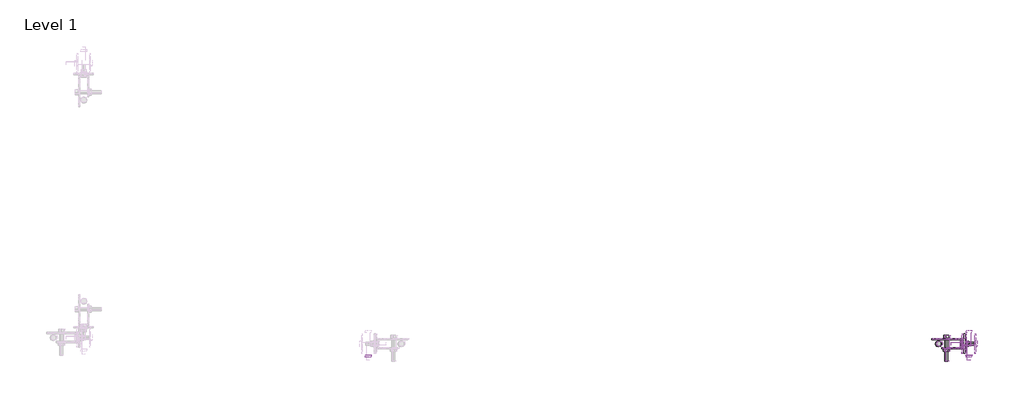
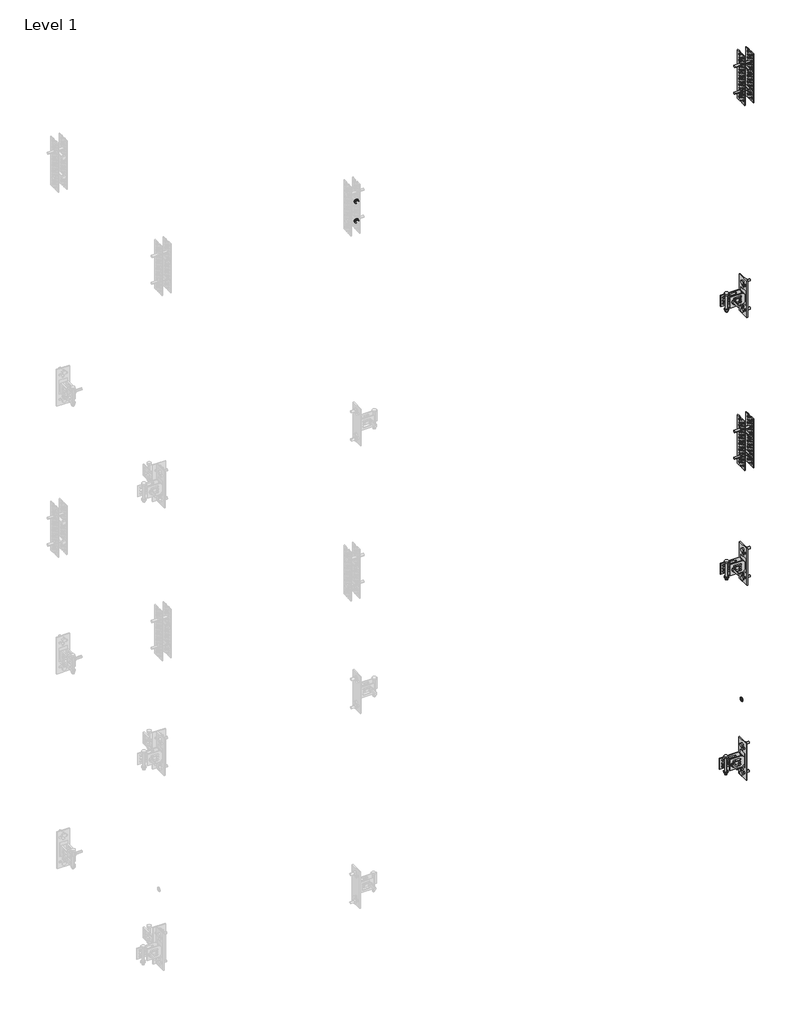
# One storey, part 16 of 32: 73 valves.
"""IFC4 building model written with IfcOpenShell, lengths in millimetres."""

from ifc_helpers import new_model, si_unit, origin, place, context, project, spatial, transform, mapped, element, save
from components import valve_fad8a5b8, hexagon_nut_galvanized_extra_m8_53389388, superfix_hexagon_screw_galvanized_f0d66714, superfix_hexagon_screw_galvanized_68d17cb7, superfix_hexagon_screw_galvanized_e39b877e, superfix_hexagon_screw_galvanized_3ef5af78, superfix_hexagon_screw_galvanized_3d7df342, superfix_strap_981cfdac, superfix_u_31397e19, superfix_u_bracket_h_0b8578fe

model = new_model("IFC4")

# Units and contexts
model_context = context("Model", 3, world=origin())
ifc_project = project(units=[si_unit("LENGTHUNIT", "METRE", prefix="MILLI")], contexts=[model_context])

# Site, building, storey
site = spatial("IfcSite", under=ifc_project)
building = spatial("IfcBuilding", under=site)
storey = spatial("IfcBuildingStorey", under=building, Name="Level 1", Elevation=0.0)

# Valves
placement = place(None, origin())
valve_shape = valve_fad8a5b8(model_context)
element("IfcValve", 1, ObjectType="Superfix Flat Washer : Superfix Flat Washer M8x15x1.5", at=placement, inside=storey, context=model_context, shape_type="MappedRepresentation", body=[
    mapped(valve_shape, transform((-14221.2824311, 28749.96055, 700.0), x_axis=(1.0, 0.0, 0.0), y_axis=(0.0, 0.0, 1.0), z_axis=(0.0, -1.0, 0.0))),
])
element("IfcValve", 2, ObjectType="Superfix Flat Washer : Superfix Flat Washer M8x15x1.5", at=placement, inside=storey, context=model_context, shape_type="MappedRepresentation", body=[
    mapped(valve_shape, transform((-14170.2824311, 28762.46055, 758.0), x_axis=(0.0, 0.0, 1.0), y_axis=(0.0, 1.0, 0.0), z_axis=(-1.0, 0.0, 0.0))),
])
element("IfcValve", 3, ObjectType="Superfix Flat Washer : Superfix Flat Washer M8x15x1.5", at=placement, inside=storey, context=model_context, shape_type="MappedRepresentation", body=[
    mapped(valve_shape, transform((-14170.2824311, 28762.46055, 642.0), x_axis=(0.0, 0.0, 1.0), y_axis=(0.0, 1.0, 0.0), z_axis=(-1.0, 0.0, 0.0))),
])
element("IfcValve", 4, ObjectType="Superfix Flat Washer : Superfix Flat Washer M8x15x1.5", at=placement, inside=storey, context=model_context, shape_type="MappedRepresentation", body=[
    mapped(valve_shape, transform((-14241.2824311, 28762.46055, 671.5), x_axis=(1.0, 0.0, 0.0), y_axis=(0.0, -1.0, 0.0), z_axis=(0.0, 0.0, -1.0))),
])
element("IfcValve", 5, ObjectType="Superfix Flat Washer : Superfix Flat Washer M8x15x1.5", at=placement, inside=storey, context=model_context, shape_type="MappedRepresentation", body=[
    mapped(valve_shape, transform((-14218.2824311, 28749.96055, 2600.0), x_axis=(1.0, 0.0, 0.0), y_axis=(0.0, 0.0, 1.0), z_axis=(0.0, -1.0, 0.0))),
])
element("IfcValve", 6, ObjectType="Superfix Flat Washer : Superfix Flat Washer M8x15x1.5", at=placement, inside=storey, context=model_context, shape_type="MappedRepresentation", body=[
    mapped(valve_shape, transform((-14167.2824311, 28762.46055, 2658.0), x_axis=(0.0, 0.0, 1.0), y_axis=(0.0, 1.0, 0.0), z_axis=(-1.0, 0.0, 0.0))),
])
element("IfcValve", 7, ObjectType="Superfix Flat Washer : Superfix Flat Washer M8x15x1.5", at=placement, inside=storey, context=model_context, shape_type="MappedRepresentation", body=[
    mapped(valve_shape, transform((-14167.2824311, 28762.46055, 2542.0), x_axis=(0.0, 0.0, 1.0), y_axis=(0.0, 1.0, 0.0), z_axis=(-1.0, 0.0, 0.0))),
])
element("IfcValve", 8, ObjectType="Superfix Flat Washer : Superfix Flat Washer M8x15x1.5", at=placement, inside=storey, context=model_context, shape_type="MappedRepresentation", body=[
    mapped(valve_shape, transform((-14238.2824311, 28762.46055, 2571.5), x_axis=(1.0, 0.0, 0.0), y_axis=(0.0, -1.0, 0.0), z_axis=(0.0, 0.0, -1.0))),
])
element("IfcValve", 9, ObjectType="Superfix Flat Washer : Superfix Flat Washer M8x15x1.5", at=placement, inside=storey, context=model_context, shape_type="MappedRepresentation", body=[
    mapped(valve_shape, transform((-14218.2824311, 28749.96055, 1500.0), x_axis=(1.0, 0.0, 0.0), y_axis=(0.0, 0.0, 1.0), z_axis=(0.0, -1.0, 0.0))),
])
element("IfcValve", 10, ObjectType="Superfix Flat Washer : Superfix Flat Washer M8x15x1.5", at=placement, inside=storey, context=model_context, shape_type="MappedRepresentation", body=[
    mapped(valve_shape, transform((-14167.2824311, 28762.46055, 1558.0), x_axis=(0.0, 0.0, 1.0), y_axis=(0.0, 1.0, 0.0), z_axis=(-1.0, 0.0, 0.0))),
])
element("IfcValve", 11, ObjectType="Superfix Flat Washer : Superfix Flat Washer M8x15x1.5", at=placement, inside=storey, context=model_context, shape_type="MappedRepresentation", body=[
    mapped(valve_shape, transform((-14167.2824311, 28762.46055, 1442.0), x_axis=(0.0, 0.0, 1.0), y_axis=(0.0, 1.0, 0.0), z_axis=(-1.0, 0.0, 0.0))),
])
element("IfcValve", 12, ObjectType="Superfix Flat Washer : Superfix Flat Washer M8x15x1.5", at=placement, inside=storey, context=model_context, shape_type="MappedRepresentation", body=[
    mapped(valve_shape, transform((-14238.2824311, 28762.46055, 1471.5), x_axis=(1.0, 0.0, 0.0), y_axis=(0.0, -1.0, 0.0), z_axis=(0.0, 0.0, -1.0))),
])
element("IfcValve", 13, ObjectType="Superfix Flat Washer : Superfix Flat Washer M8x15x1.5", at=placement, inside=storey, context=model_context, shape_type="MappedRepresentation", body=[
    mapped(valve_shape, transform((-14180.8824311, 28762.46055, 2055.0), x_axis=(0.0, 1.0, 0.0), y_axis=(0.0, 0.0, 1.0), z_axis=(1.0, 0.0, 0.0))),
])
element("IfcValve", 14, ObjectType="Superfix Flat Washer : Superfix Flat Washer M8x15x1.5", at=placement, inside=storey, context=model_context, shape_type="MappedRepresentation", body=[
    mapped(valve_shape, transform((-14180.8824311, 28762.46055, 945.0), x_axis=(0.0, 1.0, 0.0), y_axis=(0.0, 0.0, 1.0), z_axis=(1.0, 0.0, 0.0))),
])
element("IfcValve", 15, ObjectType="Superfix Flat Washer : Superfix Flat Washer M8x15x1.5", at=placement, inside=storey, context=model_context, shape_type="MappedRepresentation", body=[
    mapped(valve_shape, transform((-14163.2824311, 28733.96055, 2040.0), x_axis=(1.0, 0.0, 0.0), y_axis=(0.0, 0.0, 1.0), z_axis=(0.0, -1.0, 0.0))),
])
element("IfcValve", 16, ObjectType="Superfix Flat Washer : Superfix Flat Washer M8x15x1.5", at=placement, inside=storey, context=model_context, shape_type="MappedRepresentation", body=[
    mapped(valve_shape, transform((-14163.2824311, 28733.96055, 1960.0), x_axis=(1.0, 0.0, 0.0), y_axis=(0.0, 0.0, 1.0), z_axis=(0.0, -1.0, 0.0))),
])
element("IfcValve", 17, ObjectType="Superfix Flat Washer : Superfix Flat Washer M8x15x1.5", at=placement, inside=storey, context=model_context, shape_type="MappedRepresentation", body=[
    mapped(valve_shape, transform((-14180.8824311, 28762.46055, 3555.0), x_axis=(0.0, 1.0, 0.0), y_axis=(0.0, 0.0, 1.0), z_axis=(1.0, 0.0, 0.0))),
])
element("IfcValve", 18, ObjectType="Superfix Flat Washer : Superfix Flat Washer M8x15x1.5", at=placement, inside=storey, context=model_context, shape_type="MappedRepresentation", body=[
    mapped(valve_shape, transform((-14163.2824311, 28733.96055, 3540.0), x_axis=(1.0, 0.0, 0.0), y_axis=(0.0, 0.0, 1.0), z_axis=(0.0, -1.0, 0.0))),
])
element("IfcValve", 19, ObjectType="Superfix Flat Washer : Superfix Flat Washer M8x15x1.5", at=placement, inside=storey, context=model_context, shape_type="MappedRepresentation", body=[
    mapped(valve_shape, transform((-14163.2824311, 28733.96055, 3460.0), x_axis=(1.0, 0.0, 0.0), y_axis=(0.0, 0.0, 1.0), z_axis=(0.0, -1.0, 0.0))),
])
element("IfcValve", 20, ObjectType="Superfix Flat Washer : Superfix Flat Washer M8x15x1.5", at=placement, inside=storey, context=model_context, shape_type="MappedRepresentation", body=[
    mapped(valve_shape, transform((-15695.2824311, 28733.96055, 3540.0), x_axis=(1.0, 0.0, 0.0), y_axis=(0.0, 0.0, 1.0), z_axis=(0.0, -1.0, 0.0))),
])
element("IfcValve", 21, ObjectType="Superfix Flat Washer : Superfix Flat Washer M8x15x1.5", at=placement, inside=storey, context=model_context, shape_type="MappedRepresentation", body=[
    mapped(valve_shape, transform((-15695.2824311, 28733.96055, 3460.0), x_axis=(1.0, 0.0, 0.0), y_axis=(0.0, 0.0, 1.0), z_axis=(0.0, -1.0, 0.0))),
])
hexagon_nut_galvanized_extra_m8_shape = hexagon_nut_galvanized_extra_m8_53389388(model_context)
element("IfcValve", 22, ObjectType="Superfix Hexagon Nut Galvanized : Hexagon Nut Galvanized M8", at=placement, inside=storey, context=model_context, shape_type="MappedRepresentation", body=[
    mapped(hexagon_nut_galvanized_extra_m8_shape, transform((-14221.2824311, 28749.96055, 700.0), x_axis=(1.0, 0.0, 0.0), y_axis=(0.0, 0.0, 1.0), z_axis=(0.0, -1.0, 0.0))),
])
element("IfcValve", 23, ObjectType="Superfix Hexagon Nut Galvanized : Hexagon Nut Galvanized M8", at=placement, inside=storey, context=model_context, shape_type="MappedRepresentation", body=[
    mapped(hexagon_nut_galvanized_extra_m8_shape, transform((-14241.2824311, 28762.46055, 665.0), x_axis=(0.0, 1.0, 0.0), y_axis=(-1.0, 0.0, 0.0), z_axis=(0.0, 0.0, 1.0))),
])
element("IfcValve", 24, ObjectType="Superfix Hexagon Nut Galvanized : Hexagon Nut Galvanized M8", at=placement, inside=storey, context=model_context, shape_type="MappedRepresentation", body=[
    mapped(hexagon_nut_galvanized_extra_m8_shape, transform((-14163.7824311, 28762.46055, 642.0), x_axis=(0.0, 0.0, 1.0), y_axis=(0.0, 1.0, 0.0), z_axis=(-1.0, 0.0, 0.0))),
])
element("IfcValve", 25, ObjectType="Superfix Hexagon Nut Galvanized : Hexagon Nut Galvanized M8", at=placement, inside=storey, context=model_context, shape_type="MappedRepresentation", body=[
    mapped(hexagon_nut_galvanized_extra_m8_shape, transform((-14163.7824311, 28762.46055, 758.0), x_axis=(0.0, 0.0, 1.0), y_axis=(0.0, 1.0, 0.0), z_axis=(-1.0, 0.0, 0.0))),
])
element("IfcValve", 26, ObjectType="Superfix Hexagon Nut Galvanized : Hexagon Nut Galvanized M8", at=placement, inside=storey, context=model_context, shape_type="MappedRepresentation", body=[
    mapped(hexagon_nut_galvanized_extra_m8_shape, transform((-14218.2824311, 28749.96055, 2600.0), x_axis=(1.0, 0.0, 0.0), y_axis=(0.0, 0.0, 1.0), z_axis=(0.0, -1.0, 0.0))),
])
element("IfcValve", 27, ObjectType="Superfix Hexagon Nut Galvanized : Hexagon Nut Galvanized M8", at=placement, inside=storey, context=model_context, shape_type="MappedRepresentation", body=[
    mapped(hexagon_nut_galvanized_extra_m8_shape, transform((-14238.2824311, 28762.46055, 2565.0), x_axis=(0.0, 1.0, 0.0), y_axis=(-1.0, 0.0, 0.0), z_axis=(0.0, 0.0, 1.0))),
])
element("IfcValve", 28, ObjectType="Superfix Hexagon Nut Galvanized : Hexagon Nut Galvanized M8", at=placement, inside=storey, context=model_context, shape_type="MappedRepresentation", body=[
    mapped(hexagon_nut_galvanized_extra_m8_shape, transform((-14160.7824311, 28762.46055, 2542.0), x_axis=(0.0, 0.0, 1.0), y_axis=(0.0, 1.0, 0.0), z_axis=(-1.0, 0.0, 0.0))),
])
element("IfcValve", 29, ObjectType="Superfix Hexagon Nut Galvanized : Hexagon Nut Galvanized M8", at=placement, inside=storey, context=model_context, shape_type="MappedRepresentation", body=[
    mapped(hexagon_nut_galvanized_extra_m8_shape, transform((-14160.7824311, 28762.46055, 2658.0), x_axis=(0.0, 0.0, 1.0), y_axis=(0.0, 1.0, 0.0), z_axis=(-1.0, 0.0, 0.0))),
])
element("IfcValve", 30, ObjectType="Superfix Hexagon Nut Galvanized : Hexagon Nut Galvanized M8", at=placement, inside=storey, context=model_context, shape_type="MappedRepresentation", body=[
    mapped(hexagon_nut_galvanized_extra_m8_shape, transform((-14218.2824311, 28749.96055, 1500.0), x_axis=(1.0, 0.0, 0.0), y_axis=(0.0, 0.0, 1.0), z_axis=(0.0, -1.0, 0.0))),
])
element("IfcValve", 31, ObjectType="Superfix Hexagon Nut Galvanized : Hexagon Nut Galvanized M8", at=placement, inside=storey, context=model_context, shape_type="MappedRepresentation", body=[
    mapped(hexagon_nut_galvanized_extra_m8_shape, transform((-14238.2824311, 28762.46055, 1465.0), x_axis=(0.0, 1.0, 0.0), y_axis=(-1.0, 0.0, 0.0), z_axis=(0.0, 0.0, 1.0))),
])
element("IfcValve", 32, ObjectType="Superfix Hexagon Nut Galvanized : Hexagon Nut Galvanized M8", at=placement, inside=storey, context=model_context, shape_type="MappedRepresentation", body=[
    mapped(hexagon_nut_galvanized_extra_m8_shape, transform((-14160.7824311, 28762.46055, 1442.0), x_axis=(0.0, 0.0, 1.0), y_axis=(0.0, 1.0, 0.0), z_axis=(-1.0, 0.0, 0.0))),
])
element("IfcValve", 33, ObjectType="Superfix Hexagon Nut Galvanized : Hexagon Nut Galvanized M8", at=placement, inside=storey, context=model_context, shape_type="MappedRepresentation", body=[
    mapped(hexagon_nut_galvanized_extra_m8_shape, transform((-14160.7824311, 28762.46055, 1558.0), x_axis=(0.0, 0.0, 1.0), y_axis=(0.0, 1.0, 0.0), z_axis=(-1.0, 0.0, 0.0))),
])
element("IfcValve", 34, ObjectType="Superfix Hexagon Nut Galvanized : Hexagon Nut Galvanized M8", at=placement, inside=storey, context=model_context, shape_type="MappedRepresentation", body=[
    mapped(hexagon_nut_galvanized_extra_m8_shape, transform((-14179.2824311, 28762.46055, 2055.0), x_axis=(0.0, 1.0, 0.0), y_axis=(0.0, 0.0, -1.0), z_axis=(-1.0, 0.0, 0.0))),
])
element("IfcValve", 35, ObjectType="Superfix Hexagon Nut Galvanized : Hexagon Nut Galvanized M8", at=placement, inside=storey, context=model_context, shape_type="MappedRepresentation", body=[
    mapped(hexagon_nut_galvanized_extra_m8_shape, transform((-14179.2824311, 28762.46055, 1945.0), x_axis=(0.0, 1.0, 0.0), y_axis=(0.0, 0.0, -1.0), z_axis=(-1.0, 0.0, 0.0))),
])
element("IfcValve", 36, ObjectType="Superfix Hexagon Nut Galvanized : Hexagon Nut Galvanized M8", at=placement, inside=storey, context=model_context, shape_type="MappedRepresentation", body=[
    mapped(hexagon_nut_galvanized_extra_m8_shape, transform((-14163.2824311, 28733.96055, 2040.0), x_axis=(1.0, 0.0, 0.0), y_axis=(0.0, 0.0, 1.0), z_axis=(0.0, -1.0, 0.0))),
])
element("IfcValve", 37, ObjectType="Superfix Hexagon Nut Galvanized : Hexagon Nut Galvanized M8", at=placement, inside=storey, context=model_context, shape_type="MappedRepresentation", body=[
    mapped(hexagon_nut_galvanized_extra_m8_shape, transform((-14163.2824311, 28733.96055, 1960.0), x_axis=(1.0, 0.0, 0.0), y_axis=(0.0, 0.0, 1.0), z_axis=(0.0, -1.0, 0.0))),
])
element("IfcValve", 38, ObjectType="Superfix Hexagon Nut Galvanized : Hexagon Nut Galvanized M8", at=placement, inside=storey, context=model_context, shape_type="MappedRepresentation", body=[
    mapped(hexagon_nut_galvanized_extra_m8_shape, transform((-14179.2824311, 28762.46055, 3555.0), x_axis=(0.0, 1.0, 0.0), y_axis=(0.0, 0.0, -1.0), z_axis=(-1.0, 0.0, 0.0))),
])
element("IfcValve", 39, ObjectType="Superfix Hexagon Nut Galvanized : Hexagon Nut Galvanized M8", at=placement, inside=storey, context=model_context, shape_type="MappedRepresentation", body=[
    mapped(hexagon_nut_galvanized_extra_m8_shape, transform((-14179.2824311, 28762.46055, 3445.0), x_axis=(0.0, 1.0, 0.0), y_axis=(0.0, 0.0, -1.0), z_axis=(-1.0, 0.0, 0.0))),
])
element("IfcValve", 40, ObjectType="Superfix Hexagon Nut Galvanized : Hexagon Nut Galvanized M8", at=placement, inside=storey, context=model_context, shape_type="MappedRepresentation", body=[
    mapped(hexagon_nut_galvanized_extra_m8_shape, transform((-14163.2824311, 28733.96055, 3540.0), x_axis=(1.0, 0.0, 0.0), y_axis=(0.0, 0.0, 1.0), z_axis=(0.0, -1.0, 0.0))),
])
element("IfcValve", 41, ObjectType="Superfix Hexagon Nut Galvanized : Hexagon Nut Galvanized M8", at=placement, inside=storey, context=model_context, shape_type="MappedRepresentation", body=[
    mapped(hexagon_nut_galvanized_extra_m8_shape, transform((-14163.2824311, 28733.96055, 3460.0), x_axis=(1.0, 0.0, 0.0), y_axis=(0.0, 0.0, 1.0), z_axis=(0.0, -1.0, 0.0))),
])
element("IfcValve", 42, ObjectType="Superfix Hexagon Nut Galvanized : Hexagon Nut Galvanized M8", at=placement, inside=storey, context=model_context, shape_type="MappedRepresentation", body=[
    mapped(hexagon_nut_galvanized_extra_m8_shape, transform((-15695.2824311, 28733.96055, 3540.0), x_axis=(1.0, 0.0, 0.0), y_axis=(0.0, 0.0, 1.0), z_axis=(0.0, -1.0, 0.0))),
])
element("IfcValve", 43, ObjectType="Superfix Hexagon Nut Galvanized : Hexagon Nut Galvanized M8", at=placement, inside=storey, context=model_context, shape_type="MappedRepresentation", body=[
    mapped(hexagon_nut_galvanized_extra_m8_shape, transform((-15695.2824311, 28733.96055, 3460.0), x_axis=(1.0, 0.0, 0.0), y_axis=(0.0, 0.0, 1.0), z_axis=(0.0, -1.0, 0.0))),
])
superfix_hexagon_screw_galvanized_shape = superfix_hexagon_screw_galvanized_f0d66714(model_context)
element("IfcValve", 44, ObjectType="SuperFix Hexagon Screw Galvanized : Hexagon Screw Galvanized M8 × 60", at=placement, inside=storey, context=model_context, shape_type="MappedRepresentation", body=[
    mapped(superfix_hexagon_screw_galvanized_shape, transform((-14221.2824311, 28777.96055, 700.0), x_axis=(0.0, 0.0, 1.0), y_axis=(1.0, 0.0, 0.0), z_axis=(0.0, 1.0, 0.0))),
])
element("IfcValve", 45, ObjectType="SuperFix Hexagon Screw Galvanized : Hexagon Screw Galvanized M8 × 60", at=placement, inside=storey, context=model_context, shape_type="MappedRepresentation", body=[
    mapped(superfix_hexagon_screw_galvanized_shape, transform((-14218.2824311, 28777.96055, 2600.0), x_axis=(0.0, 0.0, 1.0), y_axis=(1.0, 0.0, 0.0), z_axis=(0.0, 1.0, 0.0))),
])
element("IfcValve", 46, ObjectType="SuperFix Hexagon Screw Galvanized : Hexagon Screw Galvanized M8 × 60", at=placement, inside=storey, context=model_context, shape_type="MappedRepresentation", body=[
    mapped(superfix_hexagon_screw_galvanized_shape, transform((-14218.2824311, 28777.96055, 1500.0), x_axis=(0.0, 0.0, 1.0), y_axis=(1.0, 0.0, 0.0), z_axis=(0.0, 1.0, 0.0))),
])
superfix_hexagon_screw_galvanized_2_shape = superfix_hexagon_screw_galvanized_68d17cb7(model_context)
element("IfcValve", 47, ObjectType="SuperFix Hexagon Screw Galvanized : Hexagon Screw Galvanized M8 × 70", at=placement, inside=storey, context=model_context, shape_type="MappedRepresentation", body=[
    mapped(superfix_hexagon_screw_galvanized_2_shape, transform((-14241.2824311, 28762.46055, 728.5), x_axis=(0.0, 1.0, 0.0), y_axis=(-1.0, 0.0, 0.0), z_axis=(0.0, 0.0, 1.0))),
])
element("IfcValve", 48, ObjectType="SuperFix Hexagon Screw Galvanized : Hexagon Screw Galvanized M8 × 70", at=placement, inside=storey, context=model_context, shape_type="MappedRepresentation", body=[
    mapped(superfix_hexagon_screw_galvanized_2_shape, transform((-14238.2824311, 28762.46055, 2628.5), x_axis=(0.0, 1.0, 0.0), y_axis=(-1.0, 0.0, 0.0), z_axis=(0.0, 0.0, 1.0))),
])
element("IfcValve", 49, ObjectType="SuperFix Hexagon Screw Galvanized : Hexagon Screw Galvanized M8 × 70", at=placement, inside=storey, context=model_context, shape_type="MappedRepresentation", body=[
    mapped(superfix_hexagon_screw_galvanized_2_shape, transform((-14238.2824311, 28762.46055, 1528.5), x_axis=(0.0, 1.0, 0.0), y_axis=(-1.0, 0.0, 0.0), z_axis=(0.0, 0.0, 1.0))),
])
superfix_hexagon_screw_galvanized_3_shape = superfix_hexagon_screw_galvanized_e39b877e(model_context)
element("IfcValve", 50, ObjectType="SuperFix Hexagon Screw Galvanized : Hexagon Screw Galvanized M8 × 25", at=placement, inside=storey, context=model_context, shape_type="MappedRepresentation", body=[
    mapped(superfix_hexagon_screw_galvanized_3_shape, transform((-14176.2824311, 28762.46055, 758.0), x_axis=(0.0, 0.0, 1.0), y_axis=(0.0, 1.0, 0.0), z_axis=(-1.0, 0.0, 0.0))),
])
element("IfcValve", 51, ObjectType="SuperFix Hexagon Screw Galvanized : Hexagon Screw Galvanized M8 × 25", at=placement, inside=storey, context=model_context, shape_type="MappedRepresentation", body=[
    mapped(superfix_hexagon_screw_galvanized_3_shape, transform((-14176.2824311, 28762.46055, 642.0), x_axis=(0.0, 0.0, 1.0), y_axis=(0.0, 1.0, 0.0), z_axis=(-1.0, 0.0, 0.0))),
])
element("IfcValve", 52, ObjectType="SuperFix Hexagon Screw Galvanized : Hexagon Screw Galvanized M8 × 25", at=placement, inside=storey, context=model_context, shape_type="MappedRepresentation", body=[
    mapped(superfix_hexagon_screw_galvanized_3_shape, transform((-14173.2824311, 28762.46055, 2658.0), x_axis=(0.0, 0.0, 1.0), y_axis=(0.0, 1.0, 0.0), z_axis=(-1.0, 0.0, 0.0))),
])
element("IfcValve", 53, ObjectType="SuperFix Hexagon Screw Galvanized : Hexagon Screw Galvanized M8 × 25", at=placement, inside=storey, context=model_context, shape_type="MappedRepresentation", body=[
    mapped(superfix_hexagon_screw_galvanized_3_shape, transform((-14173.2824311, 28762.46055, 2542.0), x_axis=(0.0, 0.0, 1.0), y_axis=(0.0, 1.0, 0.0), z_axis=(-1.0, 0.0, 0.0))),
])
element("IfcValve", 54, ObjectType="SuperFix Hexagon Screw Galvanized : Hexagon Screw Galvanized M8 × 25", at=placement, inside=storey, context=model_context, shape_type="MappedRepresentation", body=[
    mapped(superfix_hexagon_screw_galvanized_3_shape, transform((-14173.2824311, 28762.46055, 1558.0), x_axis=(0.0, 0.0, 1.0), y_axis=(0.0, 1.0, 0.0), z_axis=(-1.0, 0.0, 0.0))),
])
element("IfcValve", 55, ObjectType="SuperFix Hexagon Screw Galvanized : Hexagon Screw Galvanized M8 × 25", at=placement, inside=storey, context=model_context, shape_type="MappedRepresentation", body=[
    mapped(superfix_hexagon_screw_galvanized_3_shape, transform((-14173.2824311, 28762.46055, 1442.0), x_axis=(0.0, 0.0, 1.0), y_axis=(0.0, 1.0, 0.0), z_axis=(-1.0, 0.0, 0.0))),
])
superfix_hexagon_screw_galvanized_4_shape = superfix_hexagon_screw_galvanized_3ef5af78(model_context)
element("IfcValve", 56, ObjectType="SuperFix Hexagon Screw Galvanized : Hexagon Screw Galvanized M8 × 60", at=placement, inside=storey, context=model_context, shape_type="MappedRepresentation", body=[
    mapped(superfix_hexagon_screw_galvanized_4_shape, transform((-14148.2824311, 28762.46055, 1945.0), x_axis=(0.0, 1.0, 0.0), y_axis=(0.0, 0.0, 1.0), z_axis=(1.0, 0.0, 0.0))),
])
element("IfcValve", 57, ObjectType="SuperFix Hexagon Screw Galvanized : Hexagon Screw Galvanized M8 × 60", at=placement, inside=storey, context=model_context, shape_type="MappedRepresentation", body=[
    mapped(superfix_hexagon_screw_galvanized_4_shape, transform((-14148.2824311, 28762.46055, 2055.0), x_axis=(0.0, 1.0, 0.0), y_axis=(0.0, 0.0, 1.0), z_axis=(1.0, 0.0, 0.0))),
])
element("IfcValve", 58, ObjectType="SuperFix Hexagon Screw Galvanized : Hexagon Screw Galvanized M8 × 60", at=placement, inside=storey, context=model_context, shape_type="MappedRepresentation", body=[
    mapped(superfix_hexagon_screw_galvanized_4_shape, transform((-14148.2824311, 28762.46055, 3445.0), x_axis=(0.0, 1.0, 0.0), y_axis=(0.0, 0.0, 1.0), z_axis=(1.0, 0.0, 0.0))),
])
element("IfcValve", 59, ObjectType="SuperFix Hexagon Screw Galvanized : Hexagon Screw Galvanized M8 × 60", at=placement, inside=storey, context=model_context, shape_type="MappedRepresentation", body=[
    mapped(superfix_hexagon_screw_galvanized_4_shape, transform((-14148.2824311, 28762.46055, 3555.0), x_axis=(0.0, 1.0, 0.0), y_axis=(0.0, 0.0, 1.0), z_axis=(1.0, 0.0, 0.0))),
])
superfix_hexagon_screw_galvanized_5_shape = superfix_hexagon_screw_galvanized_3d7df342(model_context)
element("IfcValve", 60, ObjectType="SuperFix Hexagon Screw Galvanized : Hexagon Screw Galvanized M8 × 70", at=placement, inside=storey, context=model_context, shape_type="MappedRepresentation", body=[
    mapped(superfix_hexagon_screw_galvanized_5_shape, transform((-14163.2824311, 28790.46055, 2040.0), x_axis=(1.0, 0.0, 0.0), y_axis=(0.0, 0.0, -1.0), z_axis=(0.0, 1.0, 0.0))),
])
element("IfcValve", 61, ObjectType="SuperFix Hexagon Screw Galvanized : Hexagon Screw Galvanized M8 × 70", at=placement, inside=storey, context=model_context, shape_type="MappedRepresentation", body=[
    mapped(superfix_hexagon_screw_galvanized_5_shape, transform((-14163.2824311, 28790.46055, 1960.0), x_axis=(1.0, 0.0, 0.0), y_axis=(0.0, 0.0, -1.0), z_axis=(0.0, 1.0, 0.0))),
])
element("IfcValve", 62, ObjectType="SuperFix Hexagon Screw Galvanized : Hexagon Screw Galvanized M8 × 70", at=placement, inside=storey, context=model_context, shape_type="MappedRepresentation", body=[
    mapped(superfix_hexagon_screw_galvanized_5_shape, transform((-14163.2824311, 28790.46055, 3540.0), x_axis=(1.0, 0.0, 0.0), y_axis=(0.0, 0.0, -1.0), z_axis=(0.0, 1.0, 0.0))),
])
element("IfcValve", 63, ObjectType="SuperFix Hexagon Screw Galvanized : Hexagon Screw Galvanized M8 × 70", at=placement, inside=storey, context=model_context, shape_type="MappedRepresentation", body=[
    mapped(superfix_hexagon_screw_galvanized_5_shape, transform((-14163.2824311, 28790.46055, 3460.0), x_axis=(1.0, 0.0, 0.0), y_axis=(0.0, 0.0, -1.0), z_axis=(0.0, 1.0, 0.0))),
])
superfix_strap_shape = superfix_strap_981cfdac(model_context)
element("IfcValve", 64, ObjectType="Superfix Strap : SuperFix Strap", at=placement, inside=storey, context=model_context, shape_type="MappedRepresentation", body=[
    mapped(superfix_strap_shape, transform((-14181.2824311, 28762.46055, 2000.0), x_axis=(0.0, 0.0, -1.0), y_axis=(0.0, 1.0, 0.0), z_axis=(1.0, 0.0, 0.0))),
])
element("IfcValve", 65, ObjectType="Superfix Strap : SuperFix Strap", at=placement, inside=storey, context=model_context, shape_type="MappedRepresentation", body=[
    mapped(superfix_strap_shape, transform((-14148.2824311, 28762.46055, 2000.0), x_axis=(0.0, 0.0, -1.0), y_axis=(0.0, 1.0, 0.0), z_axis=(1.0, 0.0, 0.0))),
])
element("IfcValve", 66, ObjectType="Superfix Strap : SuperFix Strap", at=placement, inside=storey, context=model_context, shape_type="MappedRepresentation", body=[
    mapped(superfix_strap_shape, transform((-14181.2824311, 28762.46055, 3500.0), x_axis=(0.0, 0.0, -1.0), y_axis=(0.0, 1.0, 0.0), z_axis=(1.0, 0.0, 0.0))),
])
element("IfcValve", 67, ObjectType="Superfix Strap : SuperFix Strap", at=placement, inside=storey, context=model_context, shape_type="MappedRepresentation", body=[
    mapped(superfix_strap_shape, transform((-14148.2824311, 28762.46055, 3500.0), x_axis=(0.0, 0.0, -1.0), y_axis=(0.0, 1.0, 0.0), z_axis=(1.0, 0.0, 0.0))),
])
superfix_u_shape = superfix_u_31397e19(model_context)
element("IfcValve", 68, ObjectType="Superfix U with bracket : SuperFix U", at=placement, inside=storey, context=model_context, shape_type="MappedRepresentation", body=[
    mapped(superfix_u_shape, transform((-14926.2824311, 28777.96055, 700.0), x_axis=(1.0, 0.0, 0.0), y_axis=(0.0, 0.0, 1.0), z_axis=(0.0, -1.0, 0.0))),
])
element("IfcValve", 69, ObjectType="Superfix U with bracket : SuperFix U", at=placement, inside=storey, context=model_context, shape_type="MappedRepresentation", body=[
    mapped(superfix_u_shape, transform((-14923.2824311, 28777.96055, 2600.0), x_axis=(1.0, 0.0, 0.0), y_axis=(0.0, 0.0, 1.0), z_axis=(0.0, -1.0, 0.0))),
])
element("IfcValve", 70, ObjectType="Superfix U with bracket : SuperFix U", at=placement, inside=storey, context=model_context, shape_type="MappedRepresentation", body=[
    mapped(superfix_u_shape, transform((-14923.2824311, 28777.96055, 1500.0), x_axis=(1.0, 0.0, 0.0), y_axis=(0.0, 0.0, 1.0), z_axis=(0.0, -1.0, 0.0))),
])
superfix_u_bracket_h_shape = superfix_u_bracket_h_0b8578fe(model_context)
element("IfcValve", 71, ObjectType="SuperFix U Bracket (H) : Superfix U Bracket (H)", at=placement, inside=storey, context=model_context, shape_type="MappedRepresentation", body=[
    mapped(superfix_u_bracket_h_shape, transform((-14173.2824311, 28749.96055, 700.0), x_axis=(1.0, 0.0, 0.0), y_axis=(0.0, 0.0, -1.0), z_axis=(0.0, 1.0, 0.0))),
])
element("IfcValve", 72, ObjectType="SuperFix U Bracket (H) : Superfix U Bracket (H)", at=placement, inside=storey, context=model_context, shape_type="MappedRepresentation", body=[
    mapped(superfix_u_bracket_h_shape, transform((-14170.2824311, 28749.96055, 2600.0), x_axis=(1.0, 0.0, 0.0), y_axis=(0.0, 0.0, -1.0), z_axis=(0.0, 1.0, 0.0))),
])
element("IfcValve", 73, ObjectType="SuperFix U Bracket (H) : Superfix U Bracket (H)", at=placement, inside=storey, context=model_context, shape_type="MappedRepresentation", body=[
    mapped(superfix_u_bracket_h_shape, transform((-14170.2824311, 28749.96055, 1500.0), x_axis=(1.0, 0.0, 0.0), y_axis=(0.0, 0.0, -1.0), z_axis=(0.0, 1.0, 0.0))),
])

save(model, "model.ifc")
